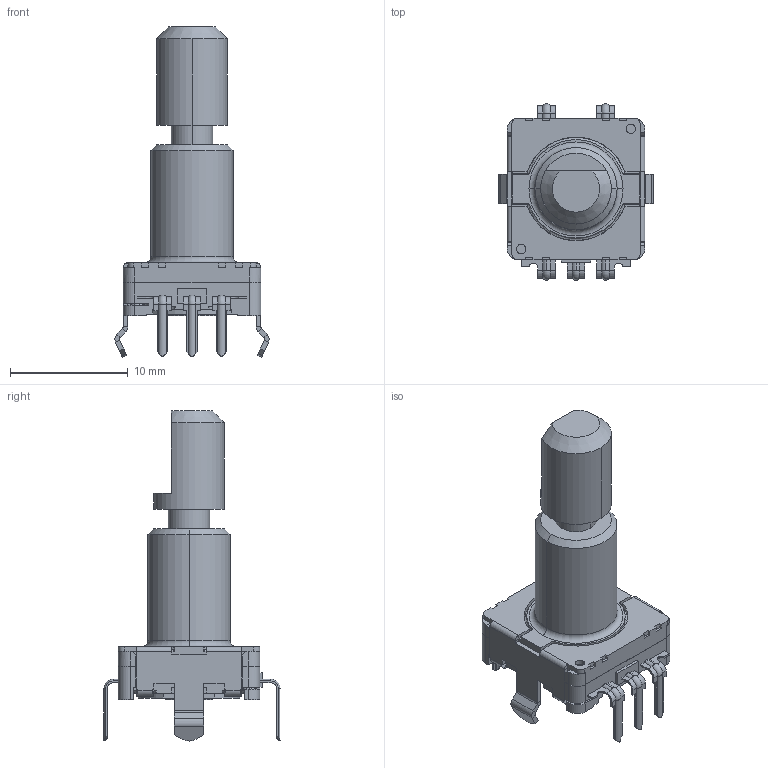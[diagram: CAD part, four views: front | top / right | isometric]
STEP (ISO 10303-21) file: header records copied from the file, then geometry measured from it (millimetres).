
FILE_DESCRIPTION (( 'STEP AP214' ), '1' );
FILE_NAME ('EC11N1525405.STEP', '2019-06-07T03:31:35', ( '' ), ( '' ), 'SwSTEP 2.0', 'SolidWorks 2017', '' );
FILE_SCHEMA (( 'AUTOMOTIVE_DESIGN' ));
Length unit declared in the file: millimetre
Products named in the file (1): EC11N1525405
Bounding box: 13.1 x 14.95 x 28 mm (x, y, z)
Volume: 1170 mm3; surface area: 1212.7 mm2
Topology: 1 solids, 1 shells, 604 faces, 1589 edges, 984 vertices
Faces by surface type: plane 413, cylinder 145, torus 23, bspline 16, cone 7
Entity records: 23775 total; most frequent: CARTESIAN_POINT 3884, ORIENTED_EDGE 3170, DIRECTION 2964, EDGE_CURVE 1585, VECTOR 1188, LINE 1188, VERTEX_POINT 984, AXIS2_PLACEMENT_3D 888
